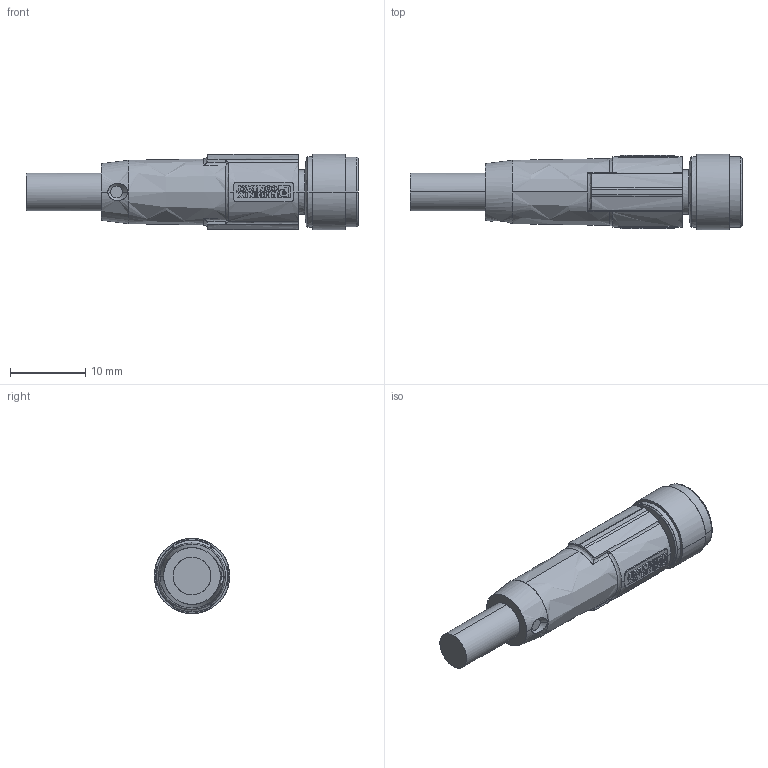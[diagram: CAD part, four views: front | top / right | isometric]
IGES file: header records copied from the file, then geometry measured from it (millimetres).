
Start section: Comment
Global section: file name: ESG 32SHxxxxG.igs; native system:  By UGS Corp.; preprocessor: XPlus GENERIC/IGES 3.0; author: Author; organization: Title; date: 20101124.082835; units: millimetre
Bounding box: 44 x 10 x 9.99 mm (x, y, z)
Surface area: 1643.1 mm2 (no closed solid volume)
Topology: 0 solids, 0 shells, 443 faces, 3175 edges, 3173 vertices
Faces by surface type: bspline 443
